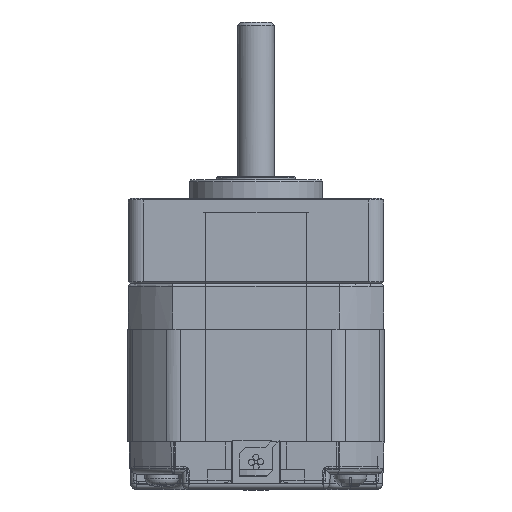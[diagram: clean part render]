
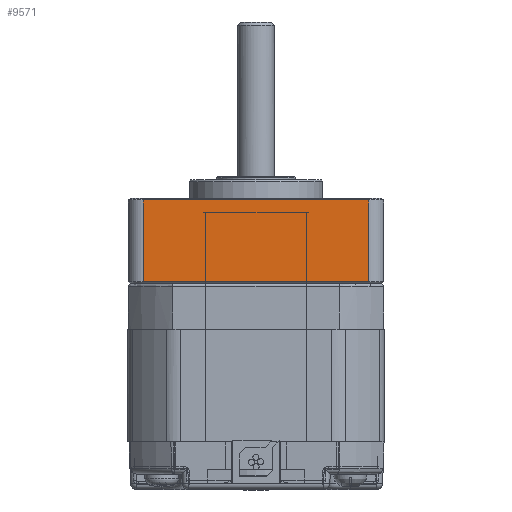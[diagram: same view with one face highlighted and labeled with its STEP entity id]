
A CAD part, front view. The second image highlights one B-rep face of the part: STEP entity #9571.
In plain terms, the highlighted planar face has unit normal (0, -1, 0).
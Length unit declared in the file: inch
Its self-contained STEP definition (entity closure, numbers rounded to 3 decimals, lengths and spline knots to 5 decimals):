
#1124=LINE('',#14916,#1669);
#1150=LINE('',#15001,#1695);
#1157=LINE('',#15042,#1702);
#1158=LINE('',#15044,#1703);
#1669=VECTOR('',#11711,1.45669);
#1695=VECTOR('',#11809,1.45669);
#1702=VECTOR('',#11872,0.52756);
#1703=VECTOR('',#11875,0.52756);
#2413=FACE_OUTER_BOUND('',#3088,.T.);
#3088=EDGE_LOOP('',(#6973,#6974,#6975,#6976));
#4478=VERTEX_POINT('',#14913);
#4479=VERTEX_POINT('',#14915);
#4501=VERTEX_POINT('',#14993);
#4502=VERTEX_POINT('',#14997);
#5389=EDGE_CURVE('',#4479,#4478,#1124,.T.);
#5434=EDGE_CURVE('',#4502,#4501,#1150,.T.);
#5452=EDGE_CURVE('',#4502,#4478,#1157,.T.);
#5453=EDGE_CURVE('',#4501,#4479,#1158,.T.);
#6973=ORIENTED_EDGE('',*,*,#5452,.F.);
#6974=ORIENTED_EDGE('',*,*,#5434,.T.);
#6975=ORIENTED_EDGE('',*,*,#5453,.T.);
#6976=ORIENTED_EDGE('',*,*,#5389,.T.);
#9243=PLANE('',#10309);
#9571=ADVANCED_FACE('',(#2413),#9243,.F.);
#10309=AXIS2_PLACEMENT_3D('',#15043,#11873,#11874);
#11711=DIRECTION('',(-1.,0.,0.));
#11809=DIRECTION('',(1.,0.,0.));
#11872=DIRECTION('',(0.,0.,1.));
#11873=DIRECTION('center_axis',(0.,1.,0.));
#11874=DIRECTION('ref_axis',(0.,0.,1.));
#11875=DIRECTION('',(0.,0.,1.));
#14913=CARTESIAN_POINT('',(-0.72835,-0.82677,0.83737));
#14915=CARTESIAN_POINT('',(0.72835,-0.82677,0.83737));
#14916=CARTESIAN_POINT('',(0.72835,-0.82677,0.83737));
#14993=CARTESIAN_POINT('',(0.72835,-0.82677,0.30981));
#14997=CARTESIAN_POINT('',(-0.72835,-0.82677,0.30981));
#15001=CARTESIAN_POINT('',(-0.72835,-0.82677,0.30981));
#15042=CARTESIAN_POINT('',(-0.72835,-0.82677,0.30981));
#15043=CARTESIAN_POINT('Origin',(-0.72835,-0.82677,
0.298));
#15044=CARTESIAN_POINT('',(0.72835,-0.82677,0.30981));
